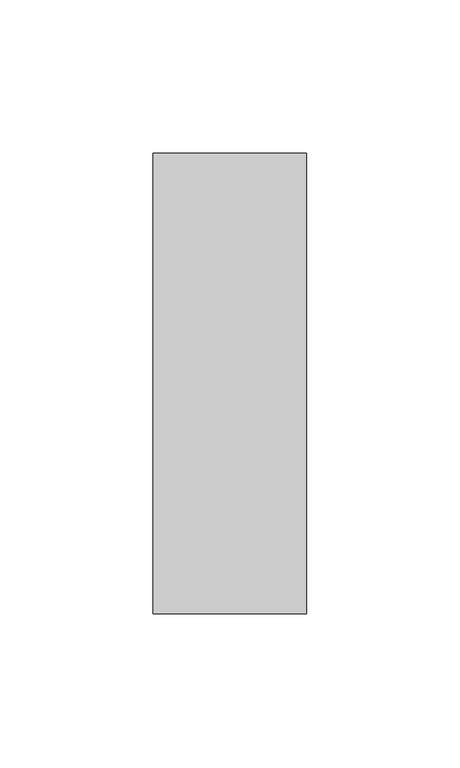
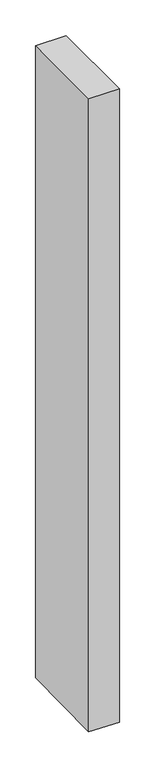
"""IFC4 building model written with IfcOpenShell, lengths in millimetres: member geometry, Прямоугольный импост : 50 x 150 мм."""

import ifcopenshell
import ifcopenshell.guid

model = None  # the IFC model being written
_history = None  # IfcOwnerHistory: only IFC2X3 demands one
_inside = {}  # id of a spatial element -> (the spatial element, [elements in it])
_under = {}  # id of a project, library or spatial element -> (it, [spatial elements below it])
_declared = {}  # id of a project -> (the project, [libraries it declares])
_typed = {}  # id of a type object -> (the type object, [elements of that type])
_made_of = {}  # id of a material, layer set ... -> (it, [elements and type objects made of it])


def new_model(schema):
    """Start an empty IFC model of exactly this schema.

    Asked for "IFC4X3", IfcOpenShell would pick the latest addendum, in which some entities
    have other attributes; the version numbers below select the first issue.
    IFC2X3 requires an IfcOwnerHistory on every rooted entity: one is made here for all.
    """
    global model, _history
    if schema == "IFC4X3":
        model = ifcopenshell.file(schema_version=(4, 3, 0, 0))
    else:
        model = ifcopenshell.file(schema=schema)
    _inside.clear()
    _under.clear()
    _declared.clear()
    _typed.clear()
    _made_of.clear()
    _history = None
    if model.schema == "IFC2X3":
        org = make("IfcOrganization", Name="unknown")
        user = make(
            "IfcPersonAndOrganization",
            ThePerson=make("IfcPerson", FamilyName="unknown"),
            TheOrganization=org,
        )
        app = make(
            "IfcApplication",
            ApplicationDeveloper=org,
            Version="unknown",
            ApplicationFullName="unknown",
            ApplicationIdentifier="unknown",
        )
        _history = make(
            "IfcOwnerHistory",
            OwningUser=user,
            OwningApplication=app,
            ChangeAction="ADDED",
            CreationDate=0,
        )
    return model


def make(cls, **values):
    """One entity of the class cls with the attributes given. An attribute that is None is left unset."""
    return model.create_entity(
        cls, **{name: value for name, value in values.items() if value is not None}
    )


def rooted(cls, **values):
    """An entity with a GlobalId (a new one), such as an element, a storey or a relation."""
    return make(cls, GlobalId=ifcopenshell.guid.new(), OwnerHistory=_history, **values)


def si_unit(unit_type, name, prefix=None):
    """IfcSIUnit, for example si_unit("LENGTHUNIT", "METRE", prefix="MILLI")."""
    return make("IfcSIUnit", UnitType=unit_type, Prefix=prefix, Name=name)


def assignment(units):
    """IfcUnitAssignment: the units of a project."""
    return None if units is None else make("IfcUnitAssignment", Units=units)


def point(xyz):
    """IfcCartesianPoint."""
    return None if xyz is None else make("IfcCartesianPoint", Coordinates=xyz)


def direction(xyz):
    """IfcDirection."""
    return None if xyz is None else make("IfcDirection", DirectionRatios=xyz)


def frame(location, z_axis=None, x_axis=None):
    """IfcAxis2Placement3D, a coordinate frame: its origin and axes. An axis left out is left unset."""
    return make(
        "IfcAxis2Placement3D",
        Location=point(location),
        Axis=direction(z_axis),
        RefDirection=direction(x_axis),
    )


def origin():
    """The frame at (0, 0, 0) with its axes left unset."""
    return frame((0.0, 0.0, 0.0))


def place(relative_to, where):
    """IfcLocalPlacement: puts the frame where relative to a parent placement (None: the world)."""
    return make(
        "IfcLocalPlacement", PlacementRelTo=relative_to, RelativePlacement=where
    )


def context(
    kind, dimensions, precision=None, world=None, true_north=None, identifier=None
):
    """IfcGeometricRepresentationContext, for example the 3D "Model" context."""
    return make(
        "IfcGeometricRepresentationContext",
        ContextIdentifier=identifier,
        ContextType=kind,
        CoordinateSpaceDimension=dimensions,
        Precision=precision,
        WorldCoordinateSystem=world,
        TrueNorth=true_north,
    )


def project(units=None, contexts=None):
    """IfcProject with its units and contexts."""
    return rooted(
        "IfcProject",
        Name="project",
        RepresentationContexts=contexts,
        UnitsInContext=assignment(units),
    )


def spatial(cls, under=None, at=None, **own):
    """A site, building, storey or space (cls), placed at a placement, below another one or the project."""
    s = rooted(cls, ObjectPlacement=at, **own)
    if under is not None:
        _under.setdefault(under.id(), (under, []))[1].append(s)
    return s


def faces_of(points, faces, orient=None, outer=None):
    """IfcFace entities. A face is a list of loops; a loop is a list of indices into points, from 0.

    orient and outer hold one flag for each loop. By default every Orientation is true, the
    first loop of a face is its IfcFaceOuterBound and the others are IfcFaceBound.
    """
    made = []
    for i, loops in enumerate(faces):
        bounds = []
        for j, loop in enumerate(loops):
            is_outer = j == 0 if outer is None else outer[i][j]
            bounds.append(
                make(
                    "IfcFaceOuterBound" if is_outer else "IfcFaceBound",
                    Bound=make("IfcPolyLoop", Polygon=[points[k] for k in loop]),
                    Orientation=True if orient is None else orient[i][j],
                )
            )
        made.append(make("IfcFace", Bounds=bounds))
    return made


def faceted_brep(points, faces, orient=None, outer=None, voids=None):
    """IfcFacetedBrep: a solid bounded by flat faces; with voids (closed shells), ...WithVoids."""
    shared = [point(p) for p in points]
    hull = make("IfcClosedShell", CfsFaces=faces_of(shared, faces, orient, outer))
    if voids is None:
        return make("IfcFacetedBrep", Outer=hull)
    return make(
        "IfcFacetedBrepWithVoids",
        Outer=hull,
        Voids=[
            make(cls, CfsFaces=faces_of(shared, fs, o, b)) for cls, fs, o, b in voids
        ],
    )


def shape(context_of_items, identifier, shape_type, items):
    """IfcShapeRepresentation: the items that make up one representation, for example the "Body"."""
    return make(
        "IfcShapeRepresentation",
        ContextOfItems=context_of_items,
        RepresentationIdentifier=identifier,
        RepresentationType=shape_type,
        Items=items,
    )


def source(mapping_origin, context_of_items, identifier, shape_type, items):
    """IfcRepresentationMap: a shape defined once, which mapped items show again and again."""
    return make(
        "IfcRepresentationMap",
        MappingOrigin=mapping_origin,
        MappedRepresentation=shape(context_of_items, identifier, shape_type, items),
    )


def transform(
    local_origin,
    x_axis=None,
    y_axis=None,
    z_axis=None,
    scale=None,
    scale2=None,
    scale3=None,
    uniform=True,
):
    """IfcCartesianTransformationOperator3D, or its non-uniform kind. x_axis, y_axis, z_axis: its Axis1, 2, 3."""
    if uniform:
        return make(
            "IfcCartesianTransformationOperator3D",
            Axis1=direction(x_axis),
            Axis2=direction(y_axis),
            LocalOrigin=point(local_origin),
            Scale=scale,
            Axis3=direction(z_axis),
        )
    return make(
        "IfcCartesianTransformationOperator3DnonUniform",
        Axis1=direction(x_axis),
        Axis2=direction(y_axis),
        LocalOrigin=point(local_origin),
        Scale=scale,
        Axis3=direction(z_axis),
        Scale2=scale2,
        Scale3=scale3,
    )


def mapped(mapping_source, mapping_target):
    """IfcMappedItem: shows the shape of a source again, moved by a transform."""
    return make(
        "IfcMappedItem", MappingSource=mapping_source, MappingTarget=mapping_target
    )


def made_of(thing, what):
    """Note that an element or type object is made of a material, layer set ...; save() writes the relation."""
    if what is not None:
        _made_of.setdefault(what.id(), (what, []))[1].append(thing)
    return thing


def element(
    cls,
    number,
    at=None,
    inside=None,
    cuts=None,
    type_object=None,
    material=None,
    context=None,
    identifier="Body",
    shape_type=None,
    held_by="IfcProductDefinitionShape",
    body=None,
    shapes=None,
    **own,
):
    """One element of the class cls, such as IfcWall. Its Tag is "e" and its number.

    at: its placement. inside: the storey or other place that contains it. cuts: it is an
    opening in that element (IfcRelVoidsElement). A single representation is given by context,
    identifier, shape_type and body (its items); several are given by shapes. held_by: the class
    of the entity that holds the representations. save() writes the other relations.
    """
    e = rooted(cls, Tag="e%d" % number, ObjectPlacement=at, **own)
    if body is not None:
        shapes = [shape(context, identifier, shape_type, body)]
    if shapes is not None:
        e.Representation = make(held_by, Representations=shapes)
    if inside is not None:
        _inside.setdefault(inside.id(), (inside, []))[1].append(e)
    if cuts is not None:
        rooted(
            "IfcRelVoidsElement", RelatingBuildingElement=cuts, RelatedOpeningElement=e
        )
    if type_object is not None:
        _typed.setdefault(type_object.id(), (type_object, []))[1].append(e)
    return made_of(e, material)


def aggregate(whole, parts):
    """IfcRelAggregates: a whole, such as a stair, and the parts it consists of."""
    return rooted("IfcRelAggregates", RelatingObject=whole, RelatedObjects=parts)


def save(model, path):
    """Write the relations noted so far, then the file.

    IfcRelAggregates (storeys below a building ...), IfcRelContainedInSpatialStructure (elements
    in a storey), IfcRelDefinesByType, IfcRelAssociatesMaterial and IfcRelDeclares: one each for
    every whole, place, type object, material and project.
    """
    for whole, parts in _under.values():
        aggregate(whole, parts)
    for where, things in _inside.values():
        rooted(
            "IfcRelContainedInSpatialStructure",
            RelatedElements=things,
            RelatingStructure=where,
        )
    for kind, things in _typed.values():
        rooted("IfcRelDefinesByType", RelatedObjects=things, RelatingType=kind)
    for what, things in _made_of.values():
        rooted("IfcRelAssociatesMaterial", RelatedObjects=things, RelatingMaterial=what)
    for by, libraries in _declared.values():
        rooted("IfcRelDeclares", RelatingContext=by, RelatedDefinitions=libraries)
    model.write(path)


def member_fa1e6098(model_context):
    return source(origin(), model_context, "Body", "Brep", [
        faceted_brep([(25.0, 75.0, 0.0), (-25.0, 75.0, 0.0), (-25.0, -75.0, 0.0), (25.0, -75.0, 0.0), (25.0, 75.0, -1085.8079103), (-25.0, 75.0, -1084.5562431), (-25.0, -75.0, -1085.894899), (25.0, -75.0, -1087.1465662)], [[[0, 1, 2, 3]], [[1, 0, 4, 5]], [[2, 1, 5, 6]], [[3, 2, 6, 7]], [[0, 3, 7, 4]], [[4, 7, 6, 5]]]),
    ])


if __name__ == "__main__":
    model = new_model("IFC4")
    model_context = context("Model", 3, world=origin())
    ifc_project = project(units=[si_unit("LENGTHUNIT", "METRE", prefix="MILLI")], contexts=[model_context])
    site = spatial("IfcSite", under=ifc_project)
    building = spatial("IfcBuilding", under=site)
    placement = place(None, origin())
    member_shape = member_fa1e6098(model_context)
    element("IfcMember", 1, ObjectType="Прямоугольный импост : 50 x 150 мм", at=placement, inside=building, context=model_context, shape_type="MappedRepresentation", body=[
        mapped(member_shape, transform((0.0, 0.0, 0.0), x_axis=(1.0, 0.0, 0.0), y_axis=(0.0, 1.0, 0.0), z_axis=(0.0, 0.0, 1.0))),
    ])
    save(model, "model.ifc")
